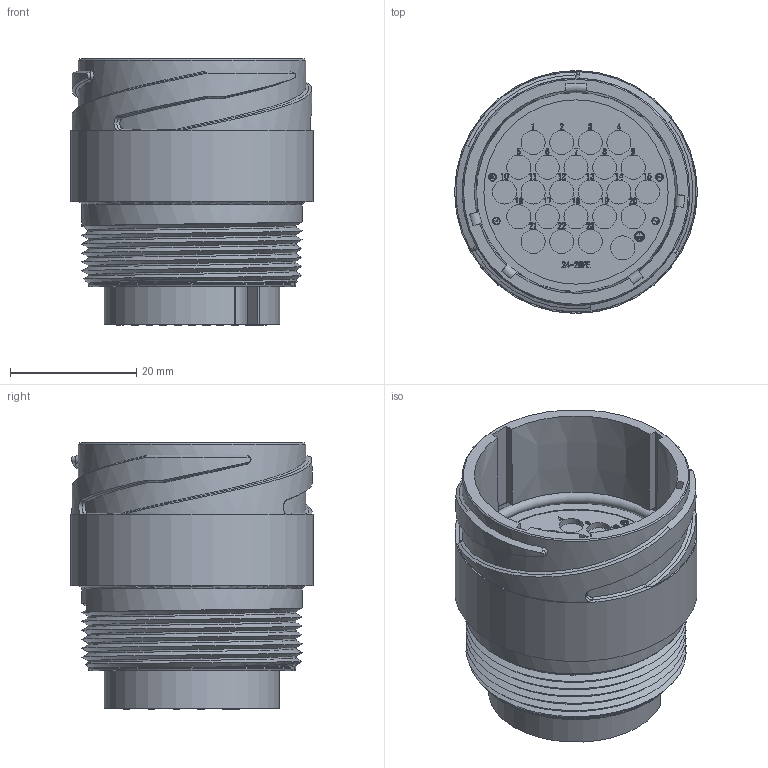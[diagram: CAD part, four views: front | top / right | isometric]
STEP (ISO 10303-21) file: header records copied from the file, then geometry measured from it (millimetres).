
FILE_DESCRIPTION (( 'STEP AP203' ), '1' );
FILE_NAME ('CE01-1A24-28PC-D0(R1).STEP', '2021-05-10T07:43:52', ( '' ), ( '' ), 'SwSTEP 2.0', 'SolidWorks 2018', '' );
FILE_SCHEMA (( 'CONFIG_CONTROL_DESIGN' ));
Length unit declared in the file: millimetre
Products named in the file (1): CE01-1A24-28PC-D0(R1)
Bounding box: 38.39 x 38.39 x 42.1 mm (x, y, z)
Volume: 23935.7 mm3; surface area: 13208.5 mm2
Topology: 1 solids, 1 shells, 1701 faces, 4517 edges, 3004 vertices
Faces by surface type: bspline 879, plane 708, cylinder 93, cone 17, torus 4
Full cylindrical faces by diameter (mm): 1 x4, 1.2 x4, 1.56 x2, 3.8 x47, 29.15 x1, 32.8 x1, 34.54 x1, 34.92 x1, 35.99 x1, 38.39 x1
Entity records: 88706 total; most frequent: CARTESIAN_POINT 52677, ORIENTED_EDGE 8868, DIRECTION 4478, EDGE_CURVE 4434, VERTEX_POINT 2992, VECTOR 2398, LINE 2398, EDGE_LOOP 1956
